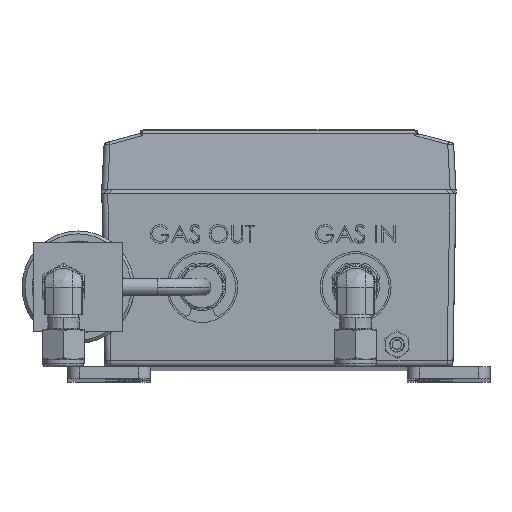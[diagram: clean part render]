
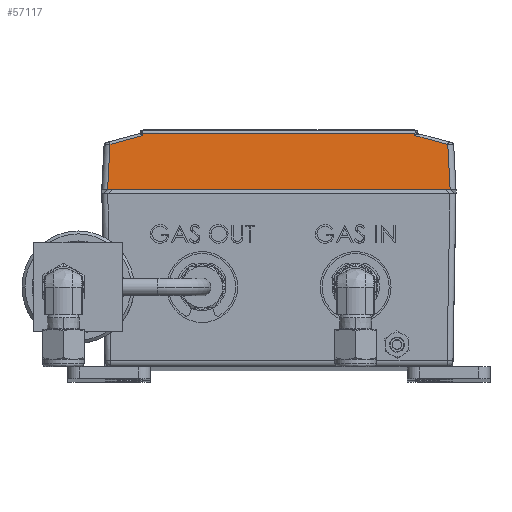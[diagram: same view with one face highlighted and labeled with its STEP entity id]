
A CAD part, front view. The second image highlights one B-rep face of the part: STEP entity #57117.
In plain terms, the highlighted planar face has unit normal (0, -0.998, 0.07).
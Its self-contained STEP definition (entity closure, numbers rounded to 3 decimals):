
#426 = LINE ( 'NONE', #36315, #48373 ) ;
#867 = ORIENTED_EDGE ( 'NONE', *, *, #25681, .F. ) ;
#1661 = VECTOR ( 'NONE', #53460, 1000. ) ;
#2256 = VERTEX_POINT ( 'NONE', #9026 ) ;
#2904 = ORIENTED_EDGE ( 'NONE', *, *, #9534, .F. ) ;
#4622 = VECTOR ( 'NONE', #11110, 1000. ) ;
#4907 = CARTESIAN_POINT ( 'NONE',  ( -46.031, -25.211, 60.806 ) ) ;
#6491 = EDGE_CURVE ( 'NONE', #51827, #44418, #426, .T. ) ;
#7776 = CARTESIAN_POINT ( 'NONE',  ( -46.354, -26.505, 42.307 ) ) ;
#9026 = CARTESIAN_POINT ( 'NONE',  ( 57.202, -25.42, 57.816 ) ) ;
#9534 = EDGE_CURVE ( 'NONE', #40576, #34514, #50030, .T. ) ;
#9732 = EDGE_CURVE ( 'NONE', #46273, #56803, #26793, .T. ) ;
#9780 = DIRECTION ( 'NONE',  ( 0., -0.07, -0.998 ) ) ;
#9888 = EDGE_CURVE ( 'NONE', #56803, #51827, #23549, .T. ) ;
#9932 = CARTESIAN_POINT ( 'NONE',  ( 45.897, -24.676, 68.453 ) ) ;
#11110 = DIRECTION ( 'NONE',  ( -0.966, 0.018, 0.259 ) ) ;
#13528 = ORIENTED_EDGE ( 'NONE', *, *, #43226, .F. ) ;
#14086 = DIRECTION ( 'NONE',  ( 1., 0., 0. ) ) ;
#14415 = ORIENTED_EDGE ( 'NONE', *, *, #26427, .T. ) ;
#14718 = CARTESIAN_POINT ( 'NONE',  ( -58.003, -26.488, 42.544 ) ) ;
#15299 = EDGE_LOOP ( 'NONE', ( #2904, #13528, #867, #39407, #18827, #54653, #43434, #14415 ) ) ;
#17042 = VECTOR ( 'NONE', #39604, 1000. ) ;
#18827 = ORIENTED_EDGE ( 'NONE', *, *, #9888, .T. ) ;
#19419 = VECTOR ( 'NONE', #44616, 1000. ) ;
#19489 = DIRECTION ( 'NONE',  ( -0.052, -0.07, -0.996 ) ) ;
#23549 = LINE ( 'NONE', #24137, #30581 ) ;
#24137 = CARTESIAN_POINT ( 'NONE',  ( -57.202, -25.42, 57.816 ) ) ;
#24574 = AXIS2_PLACEMENT_3D ( 'NONE', #44584, #53965, #9780 ) ;
#24813 = CARTESIAN_POINT ( 'NONE',  ( 57.202, -25.42, 57.816 ) ) ;
#25681 = EDGE_CURVE ( 'NONE', #46273, #35343, #26741, .T. ) ;
#26427 = EDGE_CURVE ( 'NONE', #2256, #34514, #28071, .T. ) ;
#26741 = LINE ( 'NONE', #7776, #19419 ) ;
#26793 = LINE ( 'NONE', #4907, #1661 ) ;
#27408 = CARTESIAN_POINT ( 'NONE',  ( -60., -25.157, 61.576 ) ) ;
#27980 = LINE ( 'NONE', #27408, #33281 ) ;
#28071 = LINE ( 'NONE', #24813, #4622 ) ;
#30581 = VECTOR ( 'NONE', #19489, 1000. ) ;
#31155 = CARTESIAN_POINT ( 'NONE',  ( -46.031, -25.211, 60.806 ) ) ;
#31941 = EDGE_CURVE ( 'NONE', #44418, #2256, #49631, .T. ) ;
#32344 = DIRECTION ( 'NONE',  ( 1., 0., 0. ) ) ;
#33281 = VECTOR ( 'NONE', #32344, 1000. ) ;
#34514 = VERTEX_POINT ( 'NONE', #56298 ) ;
#35213 = VECTOR ( 'NONE', #41207, 1000. ) ;
#35343 = VERTEX_POINT ( 'NONE', #38322 ) ;
#36315 = CARTESIAN_POINT ( 'NONE',  ( -60., -26.488, 42.544 ) ) ;
#38322 = CARTESIAN_POINT ( 'NONE',  ( -46.017, -25.157, 61.576 ) ) ;
#39407 = ORIENTED_EDGE ( 'NONE', *, *, #9732, .T. ) ;
#39604 = DIRECTION ( 'NONE',  ( -0.052, 0.07, 0.996 ) ) ;
#40576 = VERTEX_POINT ( 'NONE', #43781 ) ;
#41207 = DIRECTION ( 'NONE',  ( 0.017, -0.07, -0.997 ) ) ;
#41343 = FACE_OUTER_BOUND ( 'NONE', #15299, .T. ) ;
#43226 = EDGE_CURVE ( 'NONE', #35343, #40576, #27980, .T. ) ;
#43434 = ORIENTED_EDGE ( 'NONE', *, *, #31941, .T. ) ;
#43781 = CARTESIAN_POINT ( 'NONE',  ( 46.017, -25.157, 61.576 ) ) ;
#44418 = VERTEX_POINT ( 'NONE', #56534 ) ;
#44584 = CARTESIAN_POINT ( 'NONE',  ( -60., -26.488, 42.544 ) ) ;
#44616 = DIRECTION ( 'NONE',  ( 0.017, 0.07, 0.997 ) ) ;
#46273 = VERTEX_POINT ( 'NONE', #31155 ) ;
#48373 = VECTOR ( 'NONE', #14086, 1000. ) ;
#49631 = LINE ( 'NONE', #53721, #17042 ) ;
#50030 = LINE ( 'NONE', #9932, #35213 ) ;
#51827 = VERTEX_POINT ( 'NONE', #14718 ) ;
#53452 = CARTESIAN_POINT ( 'NONE',  ( -57.202, -25.42, 57.816 ) ) ;
#53460 = DIRECTION ( 'NONE',  ( -0.966, -0.018, -0.259 ) ) ;
#53683 = PLANE ( 'NONE',  #24574 ) ;
#53721 = CARTESIAN_POINT ( 'NONE',  ( 58.003, -26.488, 42.544 ) ) ;
#53965 = DIRECTION ( 'NONE',  ( 0., -0.998, 0.07 ) ) ;
#54653 = ORIENTED_EDGE ( 'NONE', *, *, #6491, .T. ) ;
#56298 = CARTESIAN_POINT ( 'NONE',  ( 46.031, -25.211, 60.806 ) ) ;
#56534 = CARTESIAN_POINT ( 'NONE',  ( 58.003, -26.488, 42.544 ) ) ;
#56803 = VERTEX_POINT ( 'NONE', #53452 ) ;
#57117 = ADVANCED_FACE ( 'NONE', ( #41343 ), #53683, .T. ) ;
